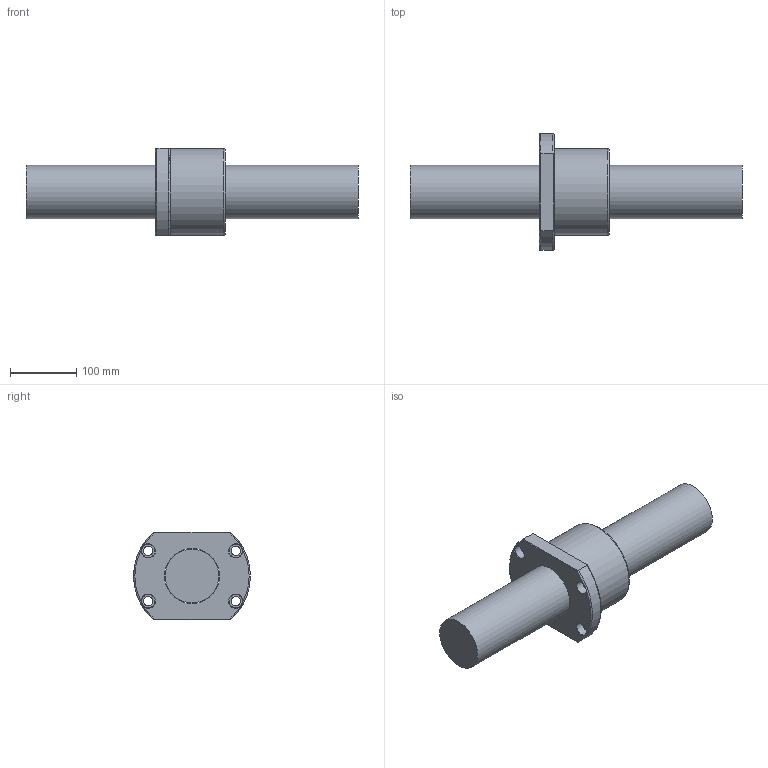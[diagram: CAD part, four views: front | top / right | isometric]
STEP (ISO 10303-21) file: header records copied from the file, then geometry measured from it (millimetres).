
FILE_DESCRIPTION (( 'STEP AP203' ), '1' );
FILE_NAME ('SFV08010D-4.8.step', '2024-05-20T03:40:31', ( '' ), ( '' ), 'SwSTEP 2.0', 'SolidWorks 2022', '' );
FILE_SCHEMA (( 'CONFIG_CONTROL_DESIGN' ));
Length unit declared in the file: millimetre
Products named in the file (1): SFV08010D-4.8
Bounding box: 500 x 176 x 132 mm (x, y, z)
Volume: 3546879.6 mm3; surface area: 244356.9 mm2
Topology: 2 solids, 2 shells, 56 faces, 147 edges, 96 vertices
Faces by surface type: cylinder 21, plane 16, cone 9, bspline 5, torus 5
Full cylindrical faces by diameter (mm): 4 x1, 7 x6, 14 x4, 20 x4, 81 x1, 82.8 x1, 130 x1
Entity records: 3957 total; most frequent: CARTESIAN_POINT 2870, DIRECTION 196, ORIENTED_EDGE 184, EDGE_CURVE 92, AXIS2_PLACEMENT_3D 91, EDGE_LOOP 86, VERTEX_POINT 72, FACE_OUTER_BOUND 64
